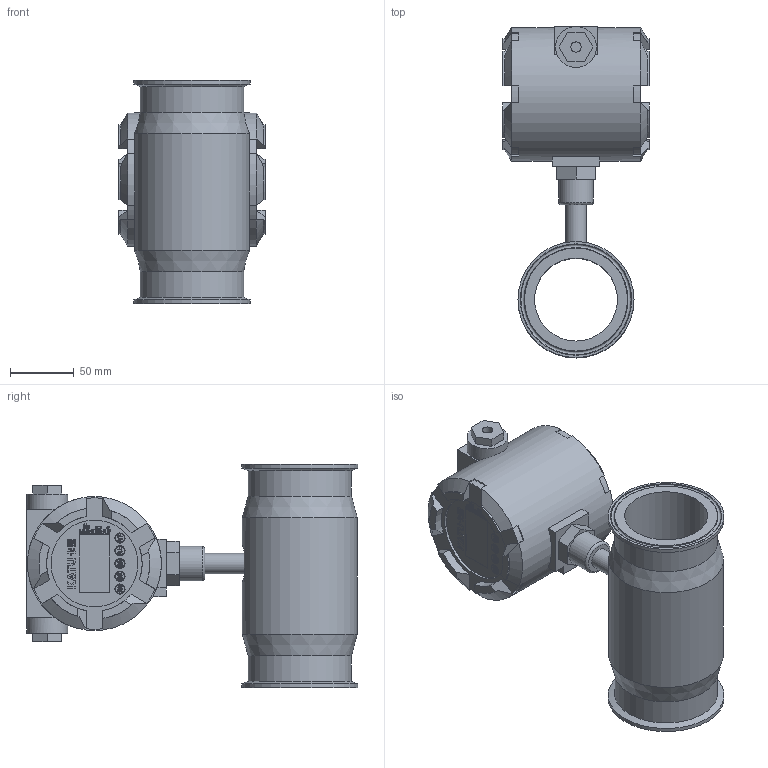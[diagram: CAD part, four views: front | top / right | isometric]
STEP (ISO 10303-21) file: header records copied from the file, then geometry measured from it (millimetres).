
FILE_DESCRIPTION( (''), '2;1');
FILE_NAME( 'QTKC_DN65_tri-clamp_Ex.step', '2024-10-14T13:45:54+08:00', (''), (''), '', '', '');
FILE_SCHEMA (('AUTOMOTIVE_DESIGN { 1 0 10303 214 3 1 1 1 }'));
Length unit declared in the file: millimetre
Products named in the file (1): QTKC DN65_tri-clamp_Ex
Bounding box: 115 x 260 x 175 mm (x, y, z)
Volume: 1405059.8 mm3; surface area: 172263 mm2
Topology: 4 solids, 4 shells, 1334 faces, 3653 edges, 2428 vertices
Faces by surface type: plane 722, extrusion 504, cylinder 72, cone 22, torus 12, bspline 2
Full cylindrical faces by diameter (mm): 3.3 x1, 8 x2, 16 x1, 16.5 x1, 18.5 x1, 20 x2, 27 x1, 32 x2, 65 x1, 68 x1, 81 x2, 90 x1, 91 x2, 105 x1
Entity records: 45145 total; most frequent: CARTESIAN_POINT 13534, ORIENTED_EDGE 7174, DIRECTION 4843, EDGE_CURVE 3587, VECTOR 2785, VERTEX_POINT 2404, LINE 2281, B_SPLINE_CURVE_WITH_KNOTS 1610
